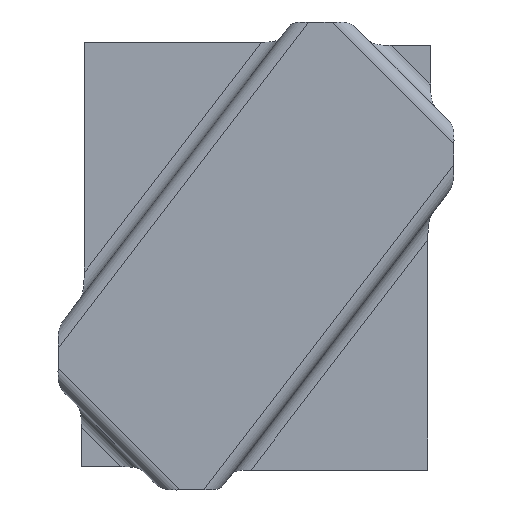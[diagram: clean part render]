
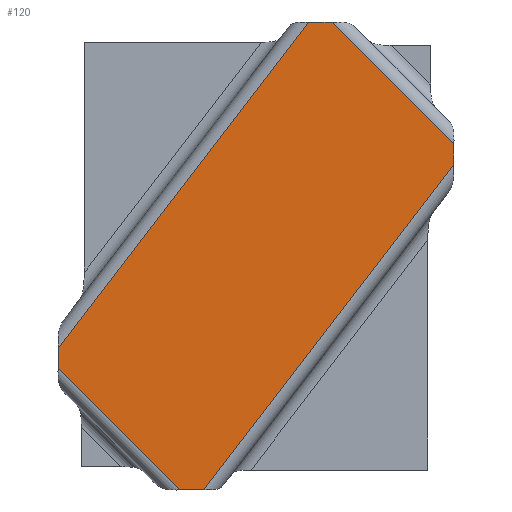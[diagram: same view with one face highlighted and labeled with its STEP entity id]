
A CAD part, top view. The second image highlights one B-rep face of the part: STEP entity #120.
In plain terms, the highlighted planar face has unit normal (0, 0, -1).
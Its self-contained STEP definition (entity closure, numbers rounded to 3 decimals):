
#53=CARTESIAN_POINT('Axis2P3D Location',(-51.315,39.405,65.199)) ;
#59=CARTESIAN_POINT('Control Point',(-51.315,78.789,65.199)) ;
#60=CARTESIAN_POINT('Control Point',(18.27,169.405,65.199)) ;
#61=CARTESIAN_POINT('Vertex',(-51.315,78.789,65.199)) ;
#63=CARTESIAN_POINT('Vertex',(18.27,169.405,65.199)) ;
#66=CARTESIAN_POINT('Line Origine',(3.685,169.405,65.199)) ;
#70=CARTESIAN_POINT('Vertex',(24.859,169.405,65.199)) ;
#74=CARTESIAN_POINT('Control Point',(24.859,169.405,65.199)) ;
#75=CARTESIAN_POINT('Control Point',(58.685,135.579,65.199)) ;
#76=CARTESIAN_POINT('Vertex',(58.685,135.579,65.199)) ;
#79=CARTESIAN_POINT('Line Origine',(58.685,104.405,65.199)) ;
#83=CARTESIAN_POINT('Vertex',(58.685,129.908,65.199)) ;
#87=CARTESIAN_POINT('Control Point',(58.685,129.908,65.199)) ;
#88=CARTESIAN_POINT('Control Point',(-10.813,39.405,65.199)) ;
#89=CARTESIAN_POINT('Vertex',(-10.813,39.405,65.199)) ;
#92=CARTESIAN_POINT('Line Origine',(3.685,39.405,65.199)) ;
#96=CARTESIAN_POINT('Vertex',(-17.489,39.405,65.199)) ;
#100=CARTESIAN_POINT('Control Point',(-51.315,73.231,65.199)) ;
#101=CARTESIAN_POINT('Control Point',(-17.489,39.405,65.199)) ;
#102=CARTESIAN_POINT('Vertex',(-51.315,73.231,65.199)) ;
#105=CARTESIAN_POINT('Line Origine',(-51.315,104.405,65.199)) ;
#54=DIRECTION('Axis2P3D Direction',(0.,0.,1.)) ;
#55=DIRECTION('Axis2P3D XDirection',(1.,0.,0.)) ;
#67=DIRECTION('Vector Direction',(1.,0.,0.)) ;
#80=DIRECTION('Vector Direction',(0.,1.,0.)) ;
#93=DIRECTION('Vector Direction',(1.,0.,0.)) ;
#106=DIRECTION('Vector Direction',(0.,1.,0.)) ;
#56=AXIS2_PLACEMENT_3D('Plane Axis2P3D',#53,#54,#55) ;
#111=ORIENTED_EDGE('',*,*,#65,.T.) ;
#112=ORIENTED_EDGE('',*,*,#72,.T.) ;
#113=ORIENTED_EDGE('',*,*,#78,.T.) ;
#114=ORIENTED_EDGE('',*,*,#85,.T.) ;
#115=ORIENTED_EDGE('',*,*,#91,.T.) ;
#116=ORIENTED_EDGE('',*,*,#98,.T.) ;
#117=ORIENTED_EDGE('',*,*,#104,.F.) ;
#118=ORIENTED_EDGE('',*,*,#109,.T.) ;
#68=VECTOR('Line Direction',#67,1.) ;
#81=VECTOR('Line Direction',#80,1.) ;
#94=VECTOR('Line Direction',#93,1.) ;
#107=VECTOR('Line Direction',#106,1.) ;
#120=ADVANCED_FACE('Offset.1',(#119),#57,.F.) ;
#58=B_SPLINE_CURVE_WITH_KNOTS('',1,(#59,#60),.UNSPECIFIED.,.F.,.U.,(2,2),(-57.126,57.126),.UNSPECIFIED.) ;
#73=B_SPLINE_CURVE_WITH_KNOTS('',1,(#74,#75),.UNSPECIFIED.,.F.,.U.,(2,2),(-23.919,23.919),.UNSPECIFIED.) ;
#86=B_SPLINE_CURVE_WITH_KNOTS('',1,(#87,#88),.UNSPECIFIED.,.F.,.U.,(2,2),(-57.054,57.054),.UNSPECIFIED.) ;
#99=B_SPLINE_CURVE_WITH_KNOTS('',1,(#100,#101),.UNSPECIFIED.,.F.,.U.,(2,2),(-23.919,23.919),.UNSPECIFIED.) ;
#65=EDGE_CURVE('',#62,#64,#58,.T.) ;
#72=EDGE_CURVE('',#64,#71,#69,.T.) ;
#78=EDGE_CURVE('',#71,#77,#73,.T.) ;
#85=EDGE_CURVE('',#77,#84,#82,.F.) ;
#91=EDGE_CURVE('',#84,#90,#86,.T.) ;
#98=EDGE_CURVE('',#90,#97,#95,.F.) ;
#104=EDGE_CURVE('',#103,#97,#99,.T.) ;
#109=EDGE_CURVE('',#103,#62,#108,.T.) ;
#110=EDGE_LOOP('',(#111,#112,#113,#114,#115,#116,#117,#118)) ;
#119=FACE_OUTER_BOUND('',#110,.T.) ;
#69=LINE('Line',#66,#68) ;
#82=LINE('Line',#79,#81) ;
#95=LINE('Line',#92,#94) ;
#108=LINE('Line',#105,#107) ;
#57=PLANE('',#56) ;
#62=VERTEX_POINT('',#61) ;
#64=VERTEX_POINT('',#63) ;
#71=VERTEX_POINT('',#70) ;
#77=VERTEX_POINT('',#76) ;
#84=VERTEX_POINT('',#83) ;
#90=VERTEX_POINT('',#89) ;
#97=VERTEX_POINT('',#96) ;
#103=VERTEX_POINT('',#102) ;
